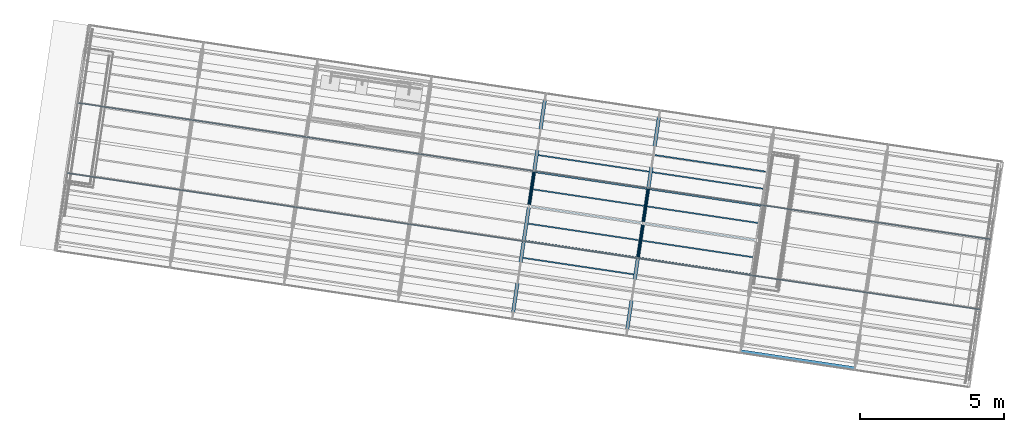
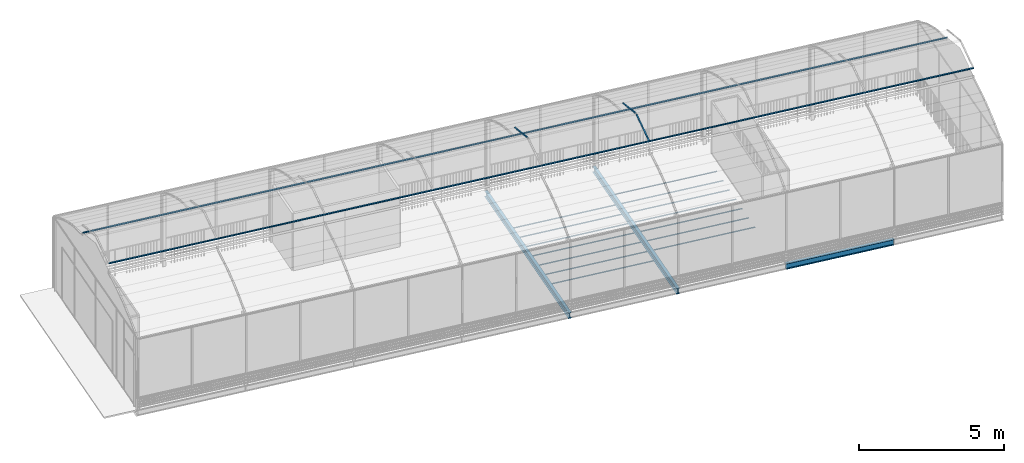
# One storey, part 11 of 34: 17 beams, 5 members, 1 element without a shape of its own.
"""IFC4 building model written with IfcOpenShell, lengths in metres."""

from ifc_helpers import new_model, si_unit, direction, frame, origin_with_axes, place, context, subcontext, project, spatial, polyline, rectangle, i_section, outline, extrude, material, material_profile, profile_set, profile_usage, type_object, element, aggregate, save


model = new_model("IFC4")

# Units and contexts
model_context = context("Model", 3, precision=1e-05, world=origin_with_axes(), true_north=direction((0.0, 1.0)))
body_context = subcontext(model_context, "Body", "Model", "MODEL_VIEW")
ifc_project = project(units=[si_unit("VOLUMEUNIT", "CUBIC_METRE"), si_unit("LENGTHUNIT", "METRE"), si_unit("AREAUNIT", "SQUARE_METRE")], contexts=[model_context])

# Site, building, storey
site_placement = place(None, origin_with_axes())
site = spatial("IfcSite", under=ifc_project, at=site_placement, Name="Lares · Rua das Mercês · artigo 4771")
building_placement = place(site_placement, frame((12.0, 10.2, 13.9), z_axis=(0.0, 0.0, 1.0), x_axis=(0.989015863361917, -0.147809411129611, 0.0)))
building = spatial("IfcBuilding", under=site, at=building_placement, Name="Casa Sobreposta")
storey_placement = place(building_placement, frame((0.0, 0.0, 3.24), z_axis=(0.0, 0.0, 1.0), x_axis=(1.0, 0.0, 0.0)))
storey = spatial("IfcBuildingStorey", under=building, at=storey_placement, Name="01 · Jardim de inverno", Elevation=17.14)

# Beams
ifc_material_1 = material(Name="Aço pintado / Stahl lackiert", Category="steel")
ifc_material_profile_1 = material_profile(ifc_material_1, i_section(OverallWidth=0.12, OverallDepth=0.24, WebThickness=0.0062, FlangeThickness=0.0098))
ifc_profile_set_1 = profile_set([ifc_material_profile_1], Name="IPE240")
ifc_profile_usage_1 = profile_usage(ifc_profile_set_1)
beam_type = type_object("IfcBeamType", Name="IPE240 / steel", PredefinedType="NOTDEFINED", material=ifc_profile_set_1)
beam_1_placement = place(storey_placement, frame((24.0, -1.44, -0.152), z_axis=(1.0, 0.0, 0.0), x_axis=(0.0, -1.0, 0.0)))
element("IfcBeam", 1, at=beam_1_placement, inside=storey, type_object=beam_type, material=ifc_profile_usage_1, Name="Viga longitudinal 24 / -1.44", context=body_context, shape_type="SweptSolid", body=[
    extrude(i_section(OverallWidth=0.12, OverallDepth=0.24, WebThickness=0.0062, FlangeThickness=0.0098), origin_with_axes(), (0.0, 0.0, 1.0), 4.0),
])
ifc_profile_usage_2 = profile_usage(ifc_profile_set_1)
beam_2_placement = place(storey_placement, frame((16.0, -1.5, -0.152), z_axis=(0.0, 1.0, 0.0), x_axis=(1.0, 0.0, 0.0)))
element("IfcBeam", 2, at=beam_2_placement, inside=storey, type_object=beam_type, material=ifc_profile_usage_2, Name="Viga transversal eixo 16", context=body_context, shape_type="SweptSolid", body=[
    extrude(i_section(OverallWidth=0.12, OverallDepth=0.24, WebThickness=0.0062, FlangeThickness=0.0098), origin_with_axes(), (0.0, 0.0, 1.0), 7.9),
])
ifc_profile_usage_3 = profile_usage(ifc_profile_set_1)
beam_3_placement = place(storey_placement, frame((20.0, -1.5, -0.152), z_axis=(0.0, 1.0, 0.0), x_axis=(1.0, 0.0, 0.0)))
element("IfcBeam", 3, at=beam_3_placement, inside=storey, type_object=beam_type, material=ifc_profile_usage_3, Name="Viga transversal eixo 20", context=body_context, shape_type="SweptSolid", body=[
    extrude(i_section(OverallWidth=0.12, OverallDepth=0.24, WebThickness=0.0062, FlangeThickness=0.0098), origin_with_axes(), (0.0, 0.0, 1.0), 7.9),
])

# Roof, members
ifc_material_2 = material(Name="Vidro / Normalglas", Category="glass")
roof_placement = place(storey_placement, frame((0.0, 0.0, -3.24), z_axis=(0.0, 0.0, 1.0), x_axis=(1.0, 0.0, 0.0)))
roof = element("IfcRoof", 4, at=roof_placement, inside=storey, material=ifc_material_2, Name="Cobertura translúcida da estufa", PredefinedType="BARREL_ROOF")
ifc_material_profile_2 = material_profile(ifc_material_1, rectangle(XDim=0.035, YDim=0.035))
ifc_profile_set_2 = profile_set([ifc_material_profile_2], Name="R0.035")
ifc_profile_usage_4 = profile_usage(ifc_profile_set_2)
member_type = type_object("IfcMemberType", Name="R0.035 / steel", PredefinedType="NOTDEFINED", material=ifc_profile_set_2)
member_1_placement = place(roof_placement, frame((20.0, 1.22042020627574, 7.62067689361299), z_axis=(0.0, 0.960073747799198, 0.279747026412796), x_axis=(1.0, 0.0, 0.0)))
member_1 = element("IfcMember", 5, at=member_1_placement, type_object=member_type, material=ifc_profile_usage_4, Name="Arco estufa 20/7", context=body_context, shape_type="SweptSolid", body=[
    extrude(rectangle(XDim=0.035, YDim=0.035), origin_with_axes(), (0.0, 0.0, 1.0), 1.23148937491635),
])
ifc_profile_usage_5 = profile_usage(ifc_profile_set_2)
member_2_placement = place(roof_placement, frame((16.0, 2.49770027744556, 7.96518238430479), z_axis=(0.0, 0.96007374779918, -0.279747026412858), x_axis=(1.0, 0.0, 0.0)))
member_2 = element("IfcMember", 6, at=member_2_placement, type_object=member_type, material=ifc_profile_usage_5, Name="Arco estufa 16/9", context=body_context, shape_type="SweptSolid", body=[
    extrude(rectangle(XDim=0.035, YDim=0.035), origin_with_axes(), (0.0, 0.0, 1.0), 1.23148937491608),
])
ifc_profile_usage_6 = profile_usage(ifc_profile_set_2)
member_3_placement = place(roof_placement, frame((20.0, 2.49770027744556, 7.96518238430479), z_axis=(0.0, 0.96007374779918, -0.279747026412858), x_axis=(1.0, 0.0, 0.0)))
member_3 = element("IfcMember", 7, at=member_3_placement, type_object=member_type, material=ifc_profile_usage_6, Name="Arco estufa 20/9", context=body_context, shape_type="SweptSolid", body=[
    extrude(rectangle(XDim=0.035, YDim=0.035), origin_with_axes(), (0.0, 0.0, 1.0), 1.23148937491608),
])
ifc_profile_usage_7 = profile_usage(ifc_profile_set_2)
member_4_placement = place(roof_placement, frame((0.0, 1.22042020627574, 7.62067689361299), z_axis=(1.0, 0.0, 0.0), x_axis=(0.0, -1.0, 0.0)))
member_4 = element("IfcMember", 8, at=member_4_placement, type_object=member_type, material=ifc_profile_usage_7, Name="Terça da estufa", context=body_context, shape_type="SweptSolid", body=[
    extrude(rectangle(XDim=0.035, YDim=0.035), origin_with_axes(), (0.0, 0.0, 1.0), 32.0),
])
ifc_profile_usage_8 = profile_usage(ifc_profile_set_2)
member_5_placement = place(roof_placement, frame((0.0, 3.68002089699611, 7.30067689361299), z_axis=(1.0, 0.0, 0.0), x_axis=(0.0, -1.0, 0.0)))
member_5 = element("IfcMember", 9, at=member_5_placement, type_object=member_type, material=ifc_profile_usage_8, Name="Terça da estufa", context=body_context, shape_type="SweptSolid", body=[
    extrude(rectangle(XDim=0.035, YDim=0.035), origin_with_axes(), (0.0, 0.0, 1.0), 32.0),
])
aggregate(roof, [member_1, member_2, member_3, member_4, member_5])

# Beams
ifc_material_3 = material(Name="Madeira / Bauholz", Category="wood")
ifc_material_profile_3 = material_profile(ifc_material_3, outline(polyline([(0.022225, -0.12), (0.022225, -0.092), (-0.022225, -0.092), (-0.022225, -0.12), (0.022225, -0.12)])))
ifc_material_4 = material(Name="OSB", Category="wood")
ifc_material_profile_4 = material_profile(ifc_material_4, outline(polyline([(0.0047625, -0.092), (0.0047625, 0.092), (-0.0047625, 0.092), (-0.0047625, -0.092), (0.0047625, -0.092)])))
ifc_material_profile_5 = material_profile(ifc_material_3, outline(polyline([(0.022225, 0.092), (0.022225, 0.12), (-0.022225, 0.12), (-0.022225, 0.092), (0.022225, 0.092)])))
ifc_profile_set_3 = profile_set([ifc_material_profile_3, ifc_material_profile_4, ifc_material_profile_5], Name="TJI240 · madeira / OSB")
ifc_profile_usage_9 = profile_usage(ifc_profile_set_3)
beam_4_placement = place(storey_placement, frame((16.065, 0.65, -0.152), z_axis=(1.0, 0.0, 0.0), x_axis=(0.0, 1.0, 0.0)))
element("IfcBeam", 10, at=beam_4_placement, inside=storey, material=ifc_profile_usage_9, Name="TJI240 · 16.065 / 0.65", context=body_context, shape_type="SweptSolid", body=[
    extrude(outline(polyline([(0.022225, -0.12), (0.022225, -0.092), (-0.022225, -0.092), (-0.022225, -0.12), (0.022225, -0.12)])), origin_with_axes(), (0.0, 0.0, 1.0), 3.87),
    extrude(outline(polyline([(0.022225, -0.12), (0.022225, -0.092), (-0.022225, -0.092), (-0.022225, -0.12), (0.022225, -0.12)])), origin_with_axes(), (0.0, 0.0, 1.0), 3.87),
    extrude(outline(polyline([(0.022225, -0.12), (0.022225, -0.092), (-0.022225, -0.092), (-0.022225, -0.12), (0.022225, -0.12)])), origin_with_axes(), (0.0, 0.0, 1.0), 3.87),
])
ifc_material_profile_6 = material_profile(ifc_material_3, outline(polyline([(0.022225, -0.12), (0.022225, -0.092), (-0.022225, -0.092), (-0.022225, -0.12), (0.022225, -0.12)])))
ifc_material_profile_7 = material_profile(ifc_material_4, outline(polyline([(0.0047625, -0.092), (0.0047625, 0.092), (-0.0047625, 0.092), (-0.0047625, -0.092), (0.0047625, -0.092)])))
ifc_material_profile_8 = material_profile(ifc_material_3, outline(polyline([(0.022225, 0.092), (0.022225, 0.12), (-0.022225, 0.12), (-0.022225, 0.092), (0.022225, 0.092)])))
ifc_profile_set_4 = profile_set([ifc_material_profile_6, ifc_material_profile_7, ifc_material_profile_8], Name="TJI240 · madeira / OSB")
ifc_profile_usage_10 = profile_usage(ifc_profile_set_4)
beam_5_placement = place(storey_placement, frame((16.065, 1.25, -0.152), z_axis=(1.0, 0.0, 0.0), x_axis=(0.0, 1.0, 0.0)))
element("IfcBeam", 11, at=beam_5_placement, inside=storey, material=ifc_profile_usage_10, Name="TJI240 · 16.065 / 1.25", context=body_context, shape_type="SweptSolid", body=[
    extrude(outline(polyline([(0.022225, -0.12), (0.022225, -0.092), (-0.022225, -0.092), (-0.022225, -0.12), (0.022225, -0.12)])), origin_with_axes(), (0.0, 0.0, 1.0), 3.87),
    extrude(outline(polyline([(0.022225, -0.12), (0.022225, -0.092), (-0.022225, -0.092), (-0.022225, -0.12), (0.022225, -0.12)])), origin_with_axes(), (0.0, 0.0, 1.0), 3.87),
    extrude(outline(polyline([(0.022225, -0.12), (0.022225, -0.092), (-0.022225, -0.092), (-0.022225, -0.12), (0.022225, -0.12)])), origin_with_axes(), (0.0, 0.0, 1.0), 3.87),
])
ifc_material_profile_9 = material_profile(ifc_material_3, outline(polyline([(0.022225, -0.12), (0.022225, -0.092), (-0.022225, -0.092), (-0.022225, -0.12), (0.022225, -0.12)])))
ifc_material_profile_10 = material_profile(ifc_material_4, outline(polyline([(0.0047625, -0.092), (0.0047625, 0.092), (-0.0047625, 0.092), (-0.0047625, -0.092), (0.0047625, -0.092)])))
ifc_material_profile_11 = material_profile(ifc_material_3, outline(polyline([(0.022225, 0.092), (0.022225, 0.12), (-0.022225, 0.12), (-0.022225, 0.092), (0.022225, 0.092)])))
ifc_profile_set_5 = profile_set([ifc_material_profile_9, ifc_material_profile_10, ifc_material_profile_11], Name="TJI240 · madeira / OSB")
ifc_profile_usage_11 = profile_usage(ifc_profile_set_5)
beam_6_placement = place(storey_placement, frame((20.065, 1.25, -0.152), z_axis=(1.0, 0.0, 0.0), x_axis=(0.0, 1.0, 0.0)))
element("IfcBeam", 12, at=beam_6_placement, inside=storey, material=ifc_profile_usage_11, Name="TJI240 · 20.065 / 1.25", context=body_context, shape_type="SweptSolid", body=[
    extrude(outline(polyline([(0.022225, -0.12), (0.022225, -0.092), (-0.022225, -0.092), (-0.022225, -0.12), (0.022225, -0.12)])), origin_with_axes(), (0.0, 0.0, 1.0), 3.87),
    extrude(outline(polyline([(0.022225, -0.12), (0.022225, -0.092), (-0.022225, -0.092), (-0.022225, -0.12), (0.022225, -0.12)])), origin_with_axes(), (0.0, 0.0, 1.0), 3.87),
    extrude(outline(polyline([(0.022225, -0.12), (0.022225, -0.092), (-0.022225, -0.092), (-0.022225, -0.12), (0.022225, -0.12)])), origin_with_axes(), (0.0, 0.0, 1.0), 3.87),
])
ifc_material_profile_12 = material_profile(ifc_material_3, outline(polyline([(0.022225, -0.12), (0.022225, -0.092), (-0.022225, -0.092), (-0.022225, -0.12), (0.022225, -0.12)])))
ifc_material_profile_13 = material_profile(ifc_material_4, outline(polyline([(0.0047625, -0.092), (0.0047625, 0.092), (-0.0047625, 0.092), (-0.0047625, -0.092), (0.0047625, -0.092)])))
ifc_material_profile_14 = material_profile(ifc_material_3, outline(polyline([(0.022225, 0.092), (0.022225, 0.12), (-0.022225, 0.12), (-0.022225, 0.092), (0.022225, 0.092)])))
ifc_profile_set_6 = profile_set([ifc_material_profile_12, ifc_material_profile_13, ifc_material_profile_14], Name="TJI240 · madeira / OSB")
ifc_profile_usage_12 = profile_usage(ifc_profile_set_6)
beam_7_placement = place(storey_placement, frame((16.065, 1.85, -0.152), z_axis=(1.0, 0.0, 0.0), x_axis=(0.0, 1.0, 0.0)))
element("IfcBeam", 13, at=beam_7_placement, inside=storey, material=ifc_profile_usage_12, Name="TJI240 · 16.065 / 1.85", context=body_context, shape_type="SweptSolid", body=[
    extrude(outline(polyline([(0.022225, -0.12), (0.022225, -0.092), (-0.022225, -0.092), (-0.022225, -0.12), (0.022225, -0.12)])), origin_with_axes(), (0.0, 0.0, 1.0), 3.87),
    extrude(outline(polyline([(0.022225, -0.12), (0.022225, -0.092), (-0.022225, -0.092), (-0.022225, -0.12), (0.022225, -0.12)])), origin_with_axes(), (0.0, 0.0, 1.0), 3.87),
    extrude(outline(polyline([(0.022225, -0.12), (0.022225, -0.092), (-0.022225, -0.092), (-0.022225, -0.12), (0.022225, -0.12)])), origin_with_axes(), (0.0, 0.0, 1.0), 3.87),
])
ifc_material_profile_15 = material_profile(ifc_material_3, outline(polyline([(0.022225, -0.12), (0.022225, -0.092), (-0.022225, -0.092), (-0.022225, -0.12), (0.022225, -0.12)])))
ifc_material_profile_16 = material_profile(ifc_material_4, outline(polyline([(0.0047625, -0.092), (0.0047625, 0.092), (-0.0047625, 0.092), (-0.0047625, -0.092), (0.0047625, -0.092)])))
ifc_material_profile_17 = material_profile(ifc_material_3, outline(polyline([(0.022225, 0.092), (0.022225, 0.12), (-0.022225, 0.12), (-0.022225, 0.092), (0.022225, 0.092)])))
ifc_profile_set_7 = profile_set([ifc_material_profile_15, ifc_material_profile_16, ifc_material_profile_17], Name="TJI240 · madeira / OSB")
ifc_profile_usage_13 = profile_usage(ifc_profile_set_7)
beam_8_placement = place(storey_placement, frame((20.065, 1.85, -0.152), z_axis=(1.0, 0.0, 0.0), x_axis=(0.0, 1.0, 0.0)))
element("IfcBeam", 14, at=beam_8_placement, inside=storey, material=ifc_profile_usage_13, Name="TJI240 · 20.065 / 1.85", context=body_context, shape_type="SweptSolid", body=[
    extrude(outline(polyline([(0.022225, -0.12), (0.022225, -0.092), (-0.022225, -0.092), (-0.022225, -0.12), (0.022225, -0.12)])), origin_with_axes(), (0.0, 0.0, 1.0), 3.87),
    extrude(outline(polyline([(0.022225, -0.12), (0.022225, -0.092), (-0.022225, -0.092), (-0.022225, -0.12), (0.022225, -0.12)])), origin_with_axes(), (0.0, 0.0, 1.0), 3.87),
    extrude(outline(polyline([(0.022225, -0.12), (0.022225, -0.092), (-0.022225, -0.092), (-0.022225, -0.12), (0.022225, -0.12)])), origin_with_axes(), (0.0, 0.0, 1.0), 3.87),
])
ifc_material_profile_18 = material_profile(ifc_material_3, outline(polyline([(0.022225, -0.12), (0.022225, -0.092), (-0.022225, -0.092), (-0.022225, -0.12), (0.022225, -0.12)])))
ifc_material_profile_19 = material_profile(ifc_material_4, outline(polyline([(0.0047625, -0.092), (0.0047625, 0.092), (-0.0047625, 0.092), (-0.0047625, -0.092), (0.0047625, -0.092)])))
ifc_material_profile_20 = material_profile(ifc_material_3, outline(polyline([(0.022225, 0.092), (0.022225, 0.12), (-0.022225, 0.12), (-0.022225, 0.092), (0.022225, 0.092)])))
ifc_profile_set_8 = profile_set([ifc_material_profile_18, ifc_material_profile_19, ifc_material_profile_20], Name="TJI240 · madeira / OSB")
ifc_profile_usage_14 = profile_usage(ifc_profile_set_8)
beam_9_placement = place(storey_placement, frame((16.065, 2.45, -0.152), z_axis=(1.0, 0.0, 0.0), x_axis=(0.0, 1.0, 0.0)))
element("IfcBeam", 15, at=beam_9_placement, inside=storey, material=ifc_profile_usage_14, Name="TJI240 · 16.065 / 2.45", context=body_context, shape_type="SweptSolid", body=[
    extrude(outline(polyline([(0.022225, -0.12), (0.022225, -0.092), (-0.022225, -0.092), (-0.022225, -0.12), (0.022225, -0.12)])), origin_with_axes(), (0.0, 0.0, 1.0), 3.87),
    extrude(outline(polyline([(0.022225, -0.12), (0.022225, -0.092), (-0.022225, -0.092), (-0.022225, -0.12), (0.022225, -0.12)])), origin_with_axes(), (0.0, 0.0, 1.0), 3.87),
    extrude(outline(polyline([(0.022225, -0.12), (0.022225, -0.092), (-0.022225, -0.092), (-0.022225, -0.12), (0.022225, -0.12)])), origin_with_axes(), (0.0, 0.0, 1.0), 3.87),
])
ifc_material_profile_21 = material_profile(ifc_material_3, outline(polyline([(0.022225, -0.12), (0.022225, -0.092), (-0.022225, -0.092), (-0.022225, -0.12), (0.022225, -0.12)])))
ifc_material_profile_22 = material_profile(ifc_material_4, outline(polyline([(0.0047625, -0.092), (0.0047625, 0.092), (-0.0047625, 0.092), (-0.0047625, -0.092), (0.0047625, -0.092)])))
ifc_material_profile_23 = material_profile(ifc_material_3, outline(polyline([(0.022225, 0.092), (0.022225, 0.12), (-0.022225, 0.12), (-0.022225, 0.092), (0.022225, 0.092)])))
ifc_profile_set_9 = profile_set([ifc_material_profile_21, ifc_material_profile_22, ifc_material_profile_23], Name="TJI240 · madeira / OSB")
ifc_profile_usage_15 = profile_usage(ifc_profile_set_9)
beam_10_placement = place(storey_placement, frame((20.065, 2.45, -0.152), z_axis=(1.0, 0.0, 0.0), x_axis=(0.0, 1.0, 0.0)))
element("IfcBeam", 16, at=beam_10_placement, inside=storey, material=ifc_profile_usage_15, Name="TJI240 · 20.065 / 2.45", context=body_context, shape_type="SweptSolid", body=[
    extrude(outline(polyline([(0.022225, -0.12), (0.022225, -0.092), (-0.022225, -0.092), (-0.022225, -0.12), (0.022225, -0.12)])), origin_with_axes(), (0.0, 0.0, 1.0), 3.87),
    extrude(outline(polyline([(0.022225, -0.12), (0.022225, -0.092), (-0.022225, -0.092), (-0.022225, -0.12), (0.022225, -0.12)])), origin_with_axes(), (0.0, 0.0, 1.0), 3.87),
    extrude(outline(polyline([(0.022225, -0.12), (0.022225, -0.092), (-0.022225, -0.092), (-0.022225, -0.12), (0.022225, -0.12)])), origin_with_axes(), (0.0, 0.0, 1.0), 3.87),
])
ifc_material_profile_24 = material_profile(ifc_material_3, outline(polyline([(0.022225, -0.12), (0.022225, -0.092), (-0.022225, -0.092), (-0.022225, -0.12), (0.022225, -0.12)])))
ifc_material_profile_25 = material_profile(ifc_material_4, outline(polyline([(0.0047625, -0.092), (0.0047625, 0.092), (-0.0047625, 0.092), (-0.0047625, -0.092), (0.0047625, -0.092)])))
ifc_material_profile_26 = material_profile(ifc_material_3, outline(polyline([(0.022225, 0.092), (0.022225, 0.12), (-0.022225, 0.12), (-0.022225, 0.092), (0.022225, 0.092)])))
ifc_profile_set_10 = profile_set([ifc_material_profile_24, ifc_material_profile_25, ifc_material_profile_26], Name="TJI240 · madeira / OSB")
ifc_profile_usage_16 = profile_usage(ifc_profile_set_10)
beam_11_placement = place(storey_placement, frame((16.065, 3.05, -0.152), z_axis=(1.0, 0.0, 0.0), x_axis=(0.0, 1.0, 0.0)))
element("IfcBeam", 17, at=beam_11_placement, inside=storey, material=ifc_profile_usage_16, Name="TJI240 · 16.065 / 3.05", context=body_context, shape_type="SweptSolid", body=[
    extrude(outline(polyline([(0.022225, -0.12), (0.022225, -0.092), (-0.022225, -0.092), (-0.022225, -0.12), (0.022225, -0.12)])), origin_with_axes(), (0.0, 0.0, 1.0), 3.87),
    extrude(outline(polyline([(0.022225, -0.12), (0.022225, -0.092), (-0.022225, -0.092), (-0.022225, -0.12), (0.022225, -0.12)])), origin_with_axes(), (0.0, 0.0, 1.0), 3.87),
    extrude(outline(polyline([(0.022225, -0.12), (0.022225, -0.092), (-0.022225, -0.092), (-0.022225, -0.12), (0.022225, -0.12)])), origin_with_axes(), (0.0, 0.0, 1.0), 3.87),
])
ifc_material_profile_27 = material_profile(ifc_material_3, outline(polyline([(0.022225, -0.12), (0.022225, -0.092), (-0.022225, -0.092), (-0.022225, -0.12), (0.022225, -0.12)])))
ifc_material_profile_28 = material_profile(ifc_material_4, outline(polyline([(0.0047625, -0.092), (0.0047625, 0.092), (-0.0047625, 0.092), (-0.0047625, -0.092), (0.0047625, -0.092)])))
ifc_material_profile_29 = material_profile(ifc_material_3, outline(polyline([(0.022225, 0.092), (0.022225, 0.12), (-0.022225, 0.12), (-0.022225, 0.092), (0.022225, 0.092)])))
ifc_profile_set_11 = profile_set([ifc_material_profile_27, ifc_material_profile_28, ifc_material_profile_29], Name="TJI240 · madeira / OSB")
ifc_profile_usage_17 = profile_usage(ifc_profile_set_11)
beam_12_placement = place(storey_placement, frame((20.065, 3.05, -0.152), z_axis=(1.0, 0.0, 0.0), x_axis=(0.0, 1.0, 0.0)))
element("IfcBeam", 18, at=beam_12_placement, inside=storey, material=ifc_profile_usage_17, Name="TJI240 · 20.065 / 3.05", context=body_context, shape_type="SweptSolid", body=[
    extrude(outline(polyline([(0.022225, -0.12), (0.022225, -0.092), (-0.022225, -0.092), (-0.022225, -0.12), (0.022225, -0.12)])), origin_with_axes(), (0.0, 0.0, 1.0), 3.87),
    extrude(outline(polyline([(0.022225, -0.12), (0.022225, -0.092), (-0.022225, -0.092), (-0.022225, -0.12), (0.022225, -0.12)])), origin_with_axes(), (0.0, 0.0, 1.0), 3.87),
    extrude(outline(polyline([(0.022225, -0.12), (0.022225, -0.092), (-0.022225, -0.092), (-0.022225, -0.12), (0.022225, -0.12)])), origin_with_axes(), (0.0, 0.0, 1.0), 3.87),
])
ifc_material_profile_30 = material_profile(ifc_material_3, outline(polyline([(0.022225, -0.12), (0.022225, -0.092), (-0.022225, -0.092), (-0.022225, -0.12), (0.022225, -0.12)])))
ifc_material_profile_31 = material_profile(ifc_material_4, outline(polyline([(0.0047625, -0.092), (0.0047625, 0.092), (-0.0047625, 0.092), (-0.0047625, -0.092), (0.0047625, -0.092)])))
ifc_material_profile_32 = material_profile(ifc_material_3, outline(polyline([(0.022225, 0.092), (0.022225, 0.12), (-0.022225, 0.12), (-0.022225, 0.092), (0.022225, 0.092)])))
ifc_profile_set_12 = profile_set([ifc_material_profile_30, ifc_material_profile_31, ifc_material_profile_32], Name="TJI240 · madeira / OSB")
ifc_profile_usage_18 = profile_usage(ifc_profile_set_12)
beam_13_placement = place(storey_placement, frame((16.065, 3.65, -0.152), z_axis=(1.0, 0.0, 0.0), x_axis=(0.0, 1.0, 0.0)))
element("IfcBeam", 19, at=beam_13_placement, inside=storey, material=ifc_profile_usage_18, Name="TJI240 · 16.065 / 3.65", context=body_context, shape_type="SweptSolid", body=[
    extrude(outline(polyline([(0.022225, -0.12), (0.022225, -0.092), (-0.022225, -0.092), (-0.022225, -0.12), (0.022225, -0.12)])), origin_with_axes(), (0.0, 0.0, 1.0), 3.87),
    extrude(outline(polyline([(0.022225, -0.12), (0.022225, -0.092), (-0.022225, -0.092), (-0.022225, -0.12), (0.022225, -0.12)])), origin_with_axes(), (0.0, 0.0, 1.0), 3.87),
    extrude(outline(polyline([(0.022225, -0.12), (0.022225, -0.092), (-0.022225, -0.092), (-0.022225, -0.12), (0.022225, -0.12)])), origin_with_axes(), (0.0, 0.0, 1.0), 3.87),
])
ifc_material_profile_33 = material_profile(ifc_material_3, outline(polyline([(0.022225, -0.12), (0.022225, -0.092), (-0.022225, -0.092), (-0.022225, -0.12), (0.022225, -0.12)])))
ifc_material_profile_34 = material_profile(ifc_material_4, outline(polyline([(0.0047625, -0.092), (0.0047625, 0.092), (-0.0047625, 0.092), (-0.0047625, -0.092), (0.0047625, -0.092)])))
ifc_material_profile_35 = material_profile(ifc_material_3, outline(polyline([(0.022225, 0.092), (0.022225, 0.12), (-0.022225, 0.12), (-0.022225, 0.092), (0.022225, 0.092)])))
ifc_profile_set_13 = profile_set([ifc_material_profile_33, ifc_material_profile_34, ifc_material_profile_35], Name="TJI240 · madeira / OSB")
ifc_profile_usage_19 = profile_usage(ifc_profile_set_13)
beam_14_placement = place(storey_placement, frame((20.065, 3.65, -0.152), z_axis=(1.0, 0.0, 0.0), x_axis=(0.0, 1.0, 0.0)))
element("IfcBeam", 20, at=beam_14_placement, inside=storey, material=ifc_profile_usage_19, Name="TJI240 · 20.065 / 3.65", context=body_context, shape_type="SweptSolid", body=[
    extrude(outline(polyline([(0.022225, -0.12), (0.022225, -0.092), (-0.022225, -0.092), (-0.022225, -0.12), (0.022225, -0.12)])), origin_with_axes(), (0.0, 0.0, 1.0), 3.87),
    extrude(outline(polyline([(0.022225, -0.12), (0.022225, -0.092), (-0.022225, -0.092), (-0.022225, -0.12), (0.022225, -0.12)])), origin_with_axes(), (0.0, 0.0, 1.0), 3.87),
    extrude(outline(polyline([(0.022225, -0.12), (0.022225, -0.092), (-0.022225, -0.092), (-0.022225, -0.12), (0.022225, -0.12)])), origin_with_axes(), (0.0, 0.0, 1.0), 3.87),
])
ifc_material_profile_36 = material_profile(ifc_material_3, outline(polyline([(0.022225, -0.12), (0.022225, -0.092), (-0.022225, -0.092), (-0.022225, -0.12), (0.022225, -0.12)])))
ifc_material_profile_37 = material_profile(ifc_material_4, outline(polyline([(0.0047625, -0.092), (0.0047625, 0.092), (-0.0047625, 0.092), (-0.0047625, -0.092), (0.0047625, -0.092)])))
ifc_material_profile_38 = material_profile(ifc_material_3, outline(polyline([(0.022225, 0.092), (0.022225, 0.12), (-0.022225, 0.12), (-0.022225, 0.092), (0.022225, 0.092)])))
ifc_profile_set_14 = profile_set([ifc_material_profile_36, ifc_material_profile_37, ifc_material_profile_38], Name="TJI240 · madeira / OSB")
ifc_profile_usage_20 = profile_usage(ifc_profile_set_14)
beam_15_placement = place(storey_placement, frame((16.065, 4.25, -0.152), z_axis=(1.0, 0.0, 0.0), x_axis=(0.0, 1.0, 0.0)))
element("IfcBeam", 21, at=beam_15_placement, inside=storey, material=ifc_profile_usage_20, Name="TJI240 · 16.065 / 4.25", context=body_context, shape_type="SweptSolid", body=[
    extrude(outline(polyline([(0.022225, -0.12), (0.022225, -0.092), (-0.022225, -0.092), (-0.022225, -0.12), (0.022225, -0.12)])), origin_with_axes(), (0.0, 0.0, 1.0), 3.87),
    extrude(outline(polyline([(0.022225, -0.12), (0.022225, -0.092), (-0.022225, -0.092), (-0.022225, -0.12), (0.022225, -0.12)])), origin_with_axes(), (0.0, 0.0, 1.0), 3.87),
    extrude(outline(polyline([(0.022225, -0.12), (0.022225, -0.092), (-0.022225, -0.092), (-0.022225, -0.12), (0.022225, -0.12)])), origin_with_axes(), (0.0, 0.0, 1.0), 3.87),
])
ifc_material_profile_39 = material_profile(ifc_material_3, outline(polyline([(0.022225, -0.12), (0.022225, -0.092), (-0.022225, -0.092), (-0.022225, -0.12), (0.022225, -0.12)])))
ifc_material_profile_40 = material_profile(ifc_material_4, outline(polyline([(0.0047625, -0.092), (0.0047625, 0.092), (-0.0047625, 0.092), (-0.0047625, -0.092), (0.0047625, -0.092)])))
ifc_material_profile_41 = material_profile(ifc_material_3, outline(polyline([(0.022225, 0.092), (0.022225, 0.12), (-0.022225, 0.12), (-0.022225, 0.092), (0.022225, 0.092)])))
ifc_profile_set_15 = profile_set([ifc_material_profile_39, ifc_material_profile_40, ifc_material_profile_41], Name="TJI240 · madeira / OSB")
ifc_profile_usage_21 = profile_usage(ifc_profile_set_15)
beam_16_placement = place(storey_placement, frame((20.065, 4.25, -0.152), z_axis=(1.0, 0.0, 0.0), x_axis=(0.0, 1.0, 0.0)))
element("IfcBeam", 22, at=beam_16_placement, inside=storey, material=ifc_profile_usage_21, Name="TJI240 · 20.065 / 4.25", context=body_context, shape_type="SweptSolid", body=[
    extrude(outline(polyline([(0.022225, -0.12), (0.022225, -0.092), (-0.022225, -0.092), (-0.022225, -0.12), (0.022225, -0.12)])), origin_with_axes(), (0.0, 0.0, 1.0), 3.87),
    extrude(outline(polyline([(0.022225, -0.12), (0.022225, -0.092), (-0.022225, -0.092), (-0.022225, -0.12), (0.022225, -0.12)])), origin_with_axes(), (0.0, 0.0, 1.0), 3.87),
    extrude(outline(polyline([(0.022225, -0.12), (0.022225, -0.092), (-0.022225, -0.092), (-0.022225, -0.12), (0.022225, -0.12)])), origin_with_axes(), (0.0, 0.0, 1.0), 3.87),
])
ifc_material_profile_42 = material_profile(ifc_material_3, outline(polyline([(0.022225, -0.12), (0.022225, -0.092), (-0.022225, -0.092), (-0.022225, -0.12), (0.022225, -0.12)])))
ifc_material_profile_43 = material_profile(ifc_material_4, outline(polyline([(0.0047625, -0.092), (0.0047625, 0.092), (-0.0047625, 0.092), (-0.0047625, -0.092), (0.0047625, -0.092)])))
ifc_material_profile_44 = material_profile(ifc_material_3, outline(polyline([(0.022225, 0.092), (0.022225, 0.12), (-0.022225, 0.12), (-0.022225, 0.092), (0.022225, 0.092)])))
ifc_profile_set_16 = profile_set([ifc_material_profile_42, ifc_material_profile_43, ifc_material_profile_44], Name="TJI240 · madeira / OSB")
ifc_profile_usage_22 = profile_usage(ifc_profile_set_16)
beam_17_placement = place(storey_placement, frame((20.065, 4.85, -0.152), z_axis=(1.0, 0.0, 0.0), x_axis=(0.0, 1.0, 0.0)))
element("IfcBeam", 23, at=beam_17_placement, inside=storey, material=ifc_profile_usage_22, Name="TJI240 · 20.065 / 4.85", context=body_context, shape_type="SweptSolid", body=[
    extrude(outline(polyline([(0.022225, -0.12), (0.022225, -0.092), (-0.022225, -0.092), (-0.022225, -0.12), (0.022225, -0.12)])), origin_with_axes(), (0.0, 0.0, 1.0), 3.87),
    extrude(outline(polyline([(0.022225, -0.12), (0.022225, -0.092), (-0.022225, -0.092), (-0.022225, -0.12), (0.022225, -0.12)])), origin_with_axes(), (0.0, 0.0, 1.0), 3.87),
    extrude(outline(polyline([(0.022225, -0.12), (0.022225, -0.092), (-0.022225, -0.092), (-0.022225, -0.12), (0.022225, -0.12)])), origin_with_axes(), (0.0, 0.0, 1.0), 3.87),
])

save(model, "model.ifc")
